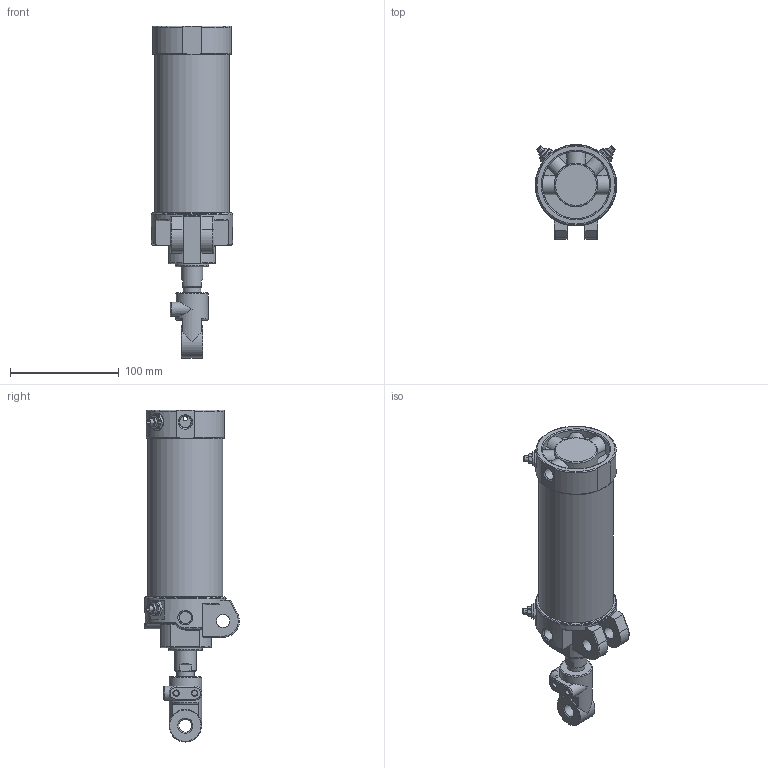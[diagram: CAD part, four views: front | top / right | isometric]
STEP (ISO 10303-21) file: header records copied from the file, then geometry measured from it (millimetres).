
FILE_DESCRIPTION((''),'2;1');
FILE_NAME('I:\3D電子目錄\氣缸\DCK\DCK\DCK-1A-63x100-I.stp','2008-02-26T15:24:49',('Administrator'),(''),'Autodesk Inventor 11','Autodesk Inventor 11','');
FILE_SCHEMA(('AUTOMOTIVE_DESIGN { 1 0 10303 214 1 1 1 1 }'));
Length unit declared in the file: millimetre
Products named in the file (6): DCK-1A-63-I; DCK-1B-63-I; 緩衝針; 緩衝針-1; 緩衝針-201; 緩衝針-3
Assembly tree (8 placements, depth 3):
  DCK-1A-63-I
    DCK-1B-63-I
    緩衝針  x4
      緩衝針-1
      緩衝針-201
      緩衝針-3
Bounding box: 75 x 87.29 x 306 mm (x, y, z)
Volume: 375980.2 mm3; surface area: 143775.2 mm2
Topology: 17 solids, 17 shells, 639 faces, 1407 edges, 875 vertices
Faces by surface type: plane 233, cylinder 179, cone 139, torus 49, bspline 39
Full cylindrical faces by diameter (mm): 2 x1, 3 x2, 3.8 x2, 4 x6, 4.6 x4, 5 x8, 5.1 x4, 5.2 x12, 5.5 x4, 7 x1, 7.25 x1, 7.9 x4, 8 x2, 11.3 x3, 12 x3, 12.8 x4, 16 x3, 20 x1, 21 x1, 22 x2, 23 x1, 24.7 x1, 26 x1, 27 x1, 28 x1, 29 x1, 30 x2, 31 x1, 33 x1, 62 x1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
Entity records: 13902 total; most frequent: CARTESIAN_POINT 5736, DIRECTION 1661, ORIENTED_EDGE 1492, EDGE_CURVE 746, AXIS2_PLACEMENT_3D 726, EDGE_LOOP 584, VERTEX_POINT 538, FACE_OUTER_BOUND 390
